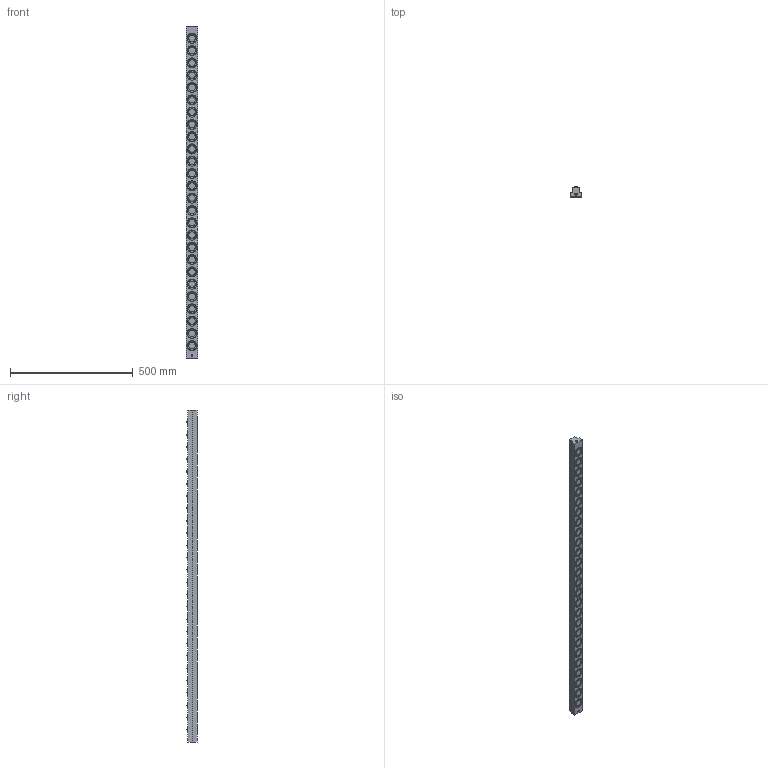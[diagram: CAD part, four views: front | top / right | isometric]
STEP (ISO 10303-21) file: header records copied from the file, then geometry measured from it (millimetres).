
FILE_DESCRIPTION (( 'STEP AP203' ), '1' );
FILE_NAME ('PVL50T-26.STEP', '2016-02-18T05:08:08', ( '' ), ( '' ), 'SwSTEP 2.0', 'SolidWorks 2013', '' );
FILE_SCHEMA (( 'CONFIG_CONTROL_DESIGN' ));
Length unit declared in the file: millimetre
Products named in the file (1): PVL50T-26
Bounding box: 45 x 42 x 1350 mm (x, y, z)
Volume: 1823566.7 mm3; surface area: 268090.2 mm2
Topology: 1 solids, 1 shells, 828 faces, 1950 edges, 1307 vertices
Faces by surface type: cylinder 526, plane 246, sphere 52, cone 4
Entity records: 24545 total; most frequent: DIRECTION 4818, CARTESIAN_POINT 4084, ORIENTED_EDGE 3896, AXIS2_PLACEMENT_3D 2041, EDGE_CURVE 1948, VERTEX_POINT 1307, CIRCLE 1212, EDGE_LOOP 1015
